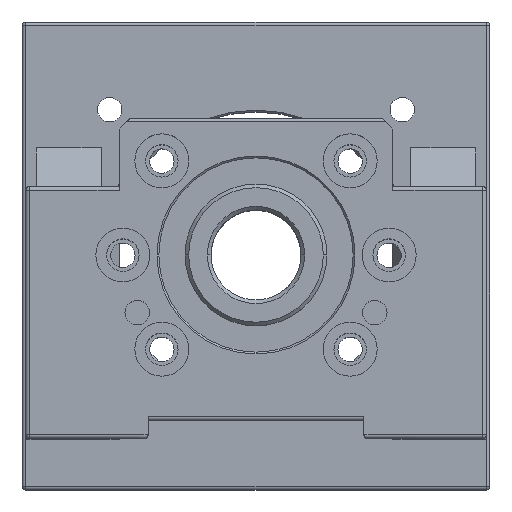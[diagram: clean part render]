
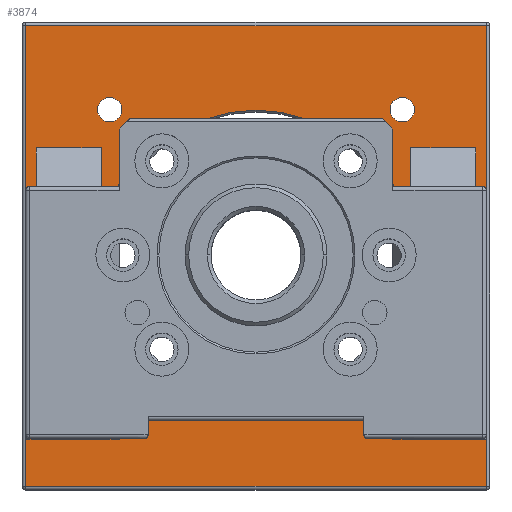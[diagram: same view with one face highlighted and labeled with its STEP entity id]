
A CAD part, top view. The second image highlights one B-rep face of the part: STEP entity #3874.
In plain terms, the highlighted planar face has unit normal (0, 0, 1).
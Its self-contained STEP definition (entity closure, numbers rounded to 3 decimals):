
#243=DIRECTION('',(-1.,0.,0.));
#244=VECTOR('',#243,17.);
#245=CARTESIAN_POINT('',(-44.,-51.,20.));
#246=LINE('',#245,#244);
#584=CARTESIAN_POINT('',(-40.659,-40.659,20.));
#585=DIRECTION('',(0.,0.,1.));
#586=DIRECTION('',(1.,0.,0.));
#587=AXIS2_PLACEMENT_3D('',#584,#585,#586);
#589=DIRECTION('',(0.,1.,0.));
#590=VECTOR('',#589,68.193);
#591=CARTESIAN_POINT('',(-43.,-38.193,20.));
#592=LINE('',#591,#590);
#593=DIRECTION('',(-1.,0.,0.));
#594=VECTOR('',#593,18.);
#595=CARTESIAN_POINT('',(-43.,30.,20.));
#596=LINE('',#595,#594);
#597=DIRECTION('',(0.,-1.,0.));
#598=VECTOR('',#597,81.);
#599=CARTESIAN_POINT('',(-61.,30.,20.));
#600=LINE('',#599,#598);
#601=CARTESIAN_POINT('',(-44.,-50.,20.));
#602=DIRECTION('',(0.,0.,1.));
#603=DIRECTION('',(0.,-1.,0.));
#604=AXIS2_PLACEMENT_3D('',#601,#602,#603);
#606=DIRECTION('',(0.,1.,0.));
#607=VECTOR('',#606,6.876);
#608=CARTESIAN_POINT('',(-43.,-50.,20.));
#609=LINE('',#608,#607);
#610=CARTESIAN_POINT('',(-40.659,-40.659,20.));
#611=DIRECTION('',(0.,0.,1.));
#612=DIRECTION('',(-0.689,-0.725,0.));
#613=AXIS2_PLACEMENT_3D('',#610,#611,#612);
#615=CARTESIAN_POINT('',(40.659,-40.659,20.));
#616=DIRECTION('',(0.,0.,1.));
#617=DIRECTION('',(0.689,0.725,0.));
#618=AXIS2_PLACEMENT_3D('',#615,#616,#617);
#620=CARTESIAN_POINT('',(40.659,-40.659,20.));
#621=DIRECTION('',(0.,0.,1.));
#622=DIRECTION('',(-1.,0.,0.));
#623=AXIS2_PLACEMENT_3D('',#620,#621,#622);
#625=DIRECTION('',(0.,-1.,0.));
#626=VECTOR('',#625,6.876);
#627=CARTESIAN_POINT('',(43.,-43.124,20.));
#628=LINE('',#627,#626);
#629=CARTESIAN_POINT('',(44.,-50.,20.));
#630=DIRECTION('',(0.,0.,1.));
#631=DIRECTION('',(-1.,0.,0.));
#632=AXIS2_PLACEMENT_3D('',#629,#630,#631);
#634=CARTESIAN_POINT('',(60.,-50.,20.));
#635=DIRECTION('',(0.,0.,1.));
#636=DIRECTION('',(0.,-1.,0.));
#637=AXIS2_PLACEMENT_3D('',#634,#635,#636);
#639=DIRECTION('',(0.,1.,0.));
#640=VECTOR('',#639,80.);
#641=CARTESIAN_POINT('',(61.,-50.,20.));
#642=LINE('',#641,#640);
#643=DIRECTION('',(-1.,0.,0.));
#644=VECTOR('',#643,18.);
#645=CARTESIAN_POINT('',(61.,30.,20.));
#646=LINE('',#645,#644);
#647=DIRECTION('',(0.,-1.,0.));
#648=VECTOR('',#647,68.193);
#649=CARTESIAN_POINT('',(43.,30.,20.));
#650=LINE('',#649,#648);
#651=CARTESIAN_POINT('',(40.659,40.659,20.));
#652=DIRECTION('',(0.,0.,1.));
#653=DIRECTION('',(1.,0.,0.));
#654=AXIS2_PLACEMENT_3D('',#651,#652,#653);
#656=CARTESIAN_POINT('',(40.659,40.659,20.));
#657=DIRECTION('',(0.,0.,1.));
#658=DIRECTION('',(-1.,0.,0.));
#659=AXIS2_PLACEMENT_3D('',#656,#657,#658);
#661=CARTESIAN_POINT('',(-40.659,40.659,20.));
#662=DIRECTION('',(0.,0.,1.));
#663=DIRECTION('',(1.,0.,0.));
#664=AXIS2_PLACEMENT_3D('',#661,#662,#663);
#666=CARTESIAN_POINT('',(-40.659,40.659,20.));
#667=DIRECTION('',(0.,0.,1.));
#668=DIRECTION('',(-1.,0.,0.));
#669=AXIS2_PLACEMENT_3D('',#666,#667,#668);
#671=CARTESIAN_POINT('',(0.,0.,20.));
#672=DIRECTION('',(0.,0.,1.));
#673=DIRECTION('',(-1.,0.,0.));
#674=AXIS2_PLACEMENT_3D('',#671,#672,#673);
#676=CARTESIAN_POINT('',(0.,0.,20.));
#677=DIRECTION('',(0.,0.,1.));
#678=DIRECTION('',(1.,0.,0.));
#679=AXIS2_PLACEMENT_3D('',#676,#677,#678);
#681=DIRECTION('',(0.,-1.,0.));
#682=VECTOR('',#681,128.);
#683=CARTESIAN_POINT('',(-64.,64.,20.));
#684=LINE('',#683,#682);
#704=DIRECTION('',(-1.,0.,0.));
#705=VECTOR('',#704,128.);
#706=CARTESIAN_POINT('',(64.,64.,20.));
#707=LINE('',#706,#705);
#882=DIRECTION('',(1.,0.,0.));
#883=VECTOR('',#882,128.);
#884=CARTESIAN_POINT('',(-64.,-64.,20.));
#885=LINE('',#884,#883);
#928=DIRECTION('',(0.,1.,0.));
#929=VECTOR('',#928,128.);
#930=CARTESIAN_POINT('',(64.,-64.,20.));
#931=LINE('',#930,#929);
#1388=DIRECTION('',(-1.,0.,0.));
#1389=VECTOR('',#1388,16.);
#1390=CARTESIAN_POINT('',(60.,-51.,20.));
#1391=LINE('',#1390,#1389);
#2437=CARTESIAN_POINT('',(-40.5,0.,20.));
#2439=VERTEX_POINT('',#2437);
#2441=CARTESIAN_POINT('',(40.5,0.,20.));
#2442=VERTEX_POINT('',#2441);
#2517=CARTESIAN_POINT('',(64.,64.,20.));
#2518=VERTEX_POINT('',#2517);
#2519=CARTESIAN_POINT('',(-64.,64.,20.));
#2520=VERTEX_POINT('',#2519);
#2521=CARTESIAN_POINT('',(64.,-64.,20.));
#2522=VERTEX_POINT('',#2521);
#2525=CARTESIAN_POINT('',(-64.,-64.,20.));
#2526=VERTEX_POINT('',#2525);
#2529=CARTESIAN_POINT('',(-37.259,-40.659,20.));
#2530=CARTESIAN_POINT('',(-43.,-38.193,20.));
#2531=VERTEX_POINT('',#2529);
#2532=VERTEX_POINT('',#2530);
#2533=CARTESIAN_POINT('',(-43.,30.,20.));
#2534=VERTEX_POINT('',#2533);
#2535=CARTESIAN_POINT('',(-61.,30.,20.));
#2536=VERTEX_POINT('',#2535);
#2537=CARTESIAN_POINT('',(-61.,-51.,20.));
#2538=VERTEX_POINT('',#2537);
#2539=CARTESIAN_POINT('',(-44.,-51.,20.));
#2540=VERTEX_POINT('',#2539);
#2541=CARTESIAN_POINT('',(-43.,-50.,20.));
#2542=VERTEX_POINT('',#2541);
#2543=CARTESIAN_POINT('',(-43.,-43.124,20.));
#2544=VERTEX_POINT('',#2543);
#2545=CARTESIAN_POINT('',(43.,-38.193,20.));
#2546=CARTESIAN_POINT('',(37.259,-40.659,20.));
#2547=VERTEX_POINT('',#2545);
#2548=VERTEX_POINT('',#2546);
#2549=CARTESIAN_POINT('',(43.,-43.124,20.));
#2550=VERTEX_POINT('',#2549);
#2551=CARTESIAN_POINT('',(43.,-50.,20.));
#2552=VERTEX_POINT('',#2551);
#2553=CARTESIAN_POINT('',(44.,-51.,20.));
#2554=VERTEX_POINT('',#2553);
#2555=CARTESIAN_POINT('',(60.,-51.,20.));
#2556=VERTEX_POINT('',#2555);
#2557=CARTESIAN_POINT('',(61.,-50.,20.));
#2558=VERTEX_POINT('',#2557);
#2559=CARTESIAN_POINT('',(61.,30.,20.));
#2560=VERTEX_POINT('',#2559);
#2561=CARTESIAN_POINT('',(43.,30.,20.));
#2562=VERTEX_POINT('',#2561);
#2563=CARTESIAN_POINT('',(44.059,40.659,20.));
#2564=CARTESIAN_POINT('',(37.259,40.659,20.));
#2565=VERTEX_POINT('',#2563);
#2566=VERTEX_POINT('',#2564);
#2567=CARTESIAN_POINT('',(-37.259,40.659,20.));
#2568=CARTESIAN_POINT('',(-44.059,40.659,20.));
#2569=VERTEX_POINT('',#2567);
#2570=VERTEX_POINT('',#2568);
#3807=CARTESIAN_POINT('',(0.,0.,20.));
#3808=DIRECTION('',(0.,0.,1.));
#3809=DIRECTION('',(1.,0.,0.));
#3810=AXIS2_PLACEMENT_3D('',#3807,#3808,#3809);
#3811=PLANE('',#3810);
#3813=ORIENTED_EDGE('',*,*,#3812,.F.);
#3815=ORIENTED_EDGE('',*,*,#3814,.F.);
#3817=ORIENTED_EDGE('',*,*,#3816,.F.);
#3819=ORIENTED_EDGE('',*,*,#3818,.F.);
#3820=EDGE_LOOP('',(#3813,#3815,#3817,#3819));
#3821=FACE_OUTER_BOUND('',#3820,.F.);
#3823=ORIENTED_EDGE('',*,*,#3822,.T.);
#3825=ORIENTED_EDGE('',*,*,#3824,.T.);
#3827=ORIENTED_EDGE('',*,*,#3826,.T.);
#3829=ORIENTED_EDGE('',*,*,#3828,.T.);
#3830=ORIENTED_EDGE('',*,*,#3311,.F.);
#3832=ORIENTED_EDGE('',*,*,#3831,.T.);
#3834=ORIENTED_EDGE('',*,*,#3833,.T.);
#3836=ORIENTED_EDGE('',*,*,#3835,.T.);
#3837=EDGE_LOOP('',(#3823,#3825,#3827,#3829,#3830,#3832,#3834,#3836));
#3838=FACE_BOUND('',#3837,.F.);
#3840=ORIENTED_EDGE('',*,*,#3839,.T.);
#3842=ORIENTED_EDGE('',*,*,#3841,.T.);
#3843=ORIENTED_EDGE('',*,*,#3798,.T.);
#3845=ORIENTED_EDGE('',*,*,#3844,.T.);
#3847=ORIENTED_EDGE('',*,*,#3846,.F.);
#3849=ORIENTED_EDGE('',*,*,#3848,.T.);
#3851=ORIENTED_EDGE('',*,*,#3850,.T.);
#3852=ORIENTED_EDGE('',*,*,#3772,.T.);
#3853=ORIENTED_EDGE('',*,*,#3789,.T.);
#3854=EDGE_LOOP('',(#3840,#3842,#3843,#3845,#3847,#3849,#3851,#3852,#3853));
#3855=FACE_BOUND('',#3854,.F.);
#3857=ORIENTED_EDGE('',*,*,#3856,.T.);
#3859=ORIENTED_EDGE('',*,*,#3858,.T.);
#3860=EDGE_LOOP('',(#3857,#3859));
#3861=FACE_BOUND('',#3860,.F.);
#3863=ORIENTED_EDGE('',*,*,#3862,.T.);
#3865=ORIENTED_EDGE('',*,*,#3864,.T.);
#3866=EDGE_LOOP('',(#3863,#3865));
#3867=FACE_BOUND('',#3866,.F.);
#3869=ORIENTED_EDGE('',*,*,#3868,.T.);
#3871=ORIENTED_EDGE('',*,*,#3870,.T.);
#3872=EDGE_LOOP('',(#3869,#3871));
#3873=FACE_BOUND('',#3872,.F.);
#588=CIRCLE('',#587,3.4);
#605=CIRCLE('',#604,1.);
#614=CIRCLE('',#613,3.4);
#619=CIRCLE('',#618,3.4);
#624=CIRCLE('',#623,3.4);
#633=CIRCLE('',#632,1.);
#638=CIRCLE('',#637,1.);
#655=CIRCLE('',#654,3.4);
#660=CIRCLE('',#659,3.4);
#665=CIRCLE('',#664,3.4);
#670=CIRCLE('',#669,3.4);
#675=CIRCLE('',#674,40.5);
#680=CIRCLE('',#679,40.5);
#3311=EDGE_CURVE('',#2540,#2538,#246,.T.);
#3772=EDGE_CURVE('',#2560,#2562,#646,.T.);
#3789=EDGE_CURVE('',#2562,#2547,#650,.T.);
#3798=EDGE_CURVE('',#2550,#2552,#628,.T.);
#3812=EDGE_CURVE('',#2520,#2526,#684,.T.);
#3814=EDGE_CURVE('',#2518,#2520,#707,.T.);
#3816=EDGE_CURVE('',#2522,#2518,#931,.T.);
#3818=EDGE_CURVE('',#2526,#2522,#885,.T.);
#3822=EDGE_CURVE('',#2531,#2532,#588,.T.);
#3824=EDGE_CURVE('',#2532,#2534,#592,.T.);
#3826=EDGE_CURVE('',#2534,#2536,#596,.T.);
#3828=EDGE_CURVE('',#2536,#2538,#600,.T.);
#3831=EDGE_CURVE('',#2540,#2542,#605,.T.);
#3833=EDGE_CURVE('',#2542,#2544,#609,.T.);
#3835=EDGE_CURVE('',#2544,#2531,#614,.T.);
#3839=EDGE_CURVE('',#2547,#2548,#619,.T.);
#3841=EDGE_CURVE('',#2548,#2550,#624,.T.);
#3844=EDGE_CURVE('',#2552,#2554,#633,.T.);
#3846=EDGE_CURVE('',#2556,#2554,#1391,.T.);
#3848=EDGE_CURVE('',#2556,#2558,#638,.T.);
#3850=EDGE_CURVE('',#2558,#2560,#642,.T.);
#3856=EDGE_CURVE('',#2565,#2566,#655,.T.);
#3858=EDGE_CURVE('',#2566,#2565,#660,.T.);
#3862=EDGE_CURVE('',#2569,#2570,#665,.T.);
#3864=EDGE_CURVE('',#2570,#2569,#670,.T.);
#3868=EDGE_CURVE('',#2439,#2442,#675,.T.);
#3870=EDGE_CURVE('',#2442,#2439,#680,.T.);
#3874=ADVANCED_FACE('',(#3821,#3838,#3855,#3861,#3867,#3873),#3811,.T.);
